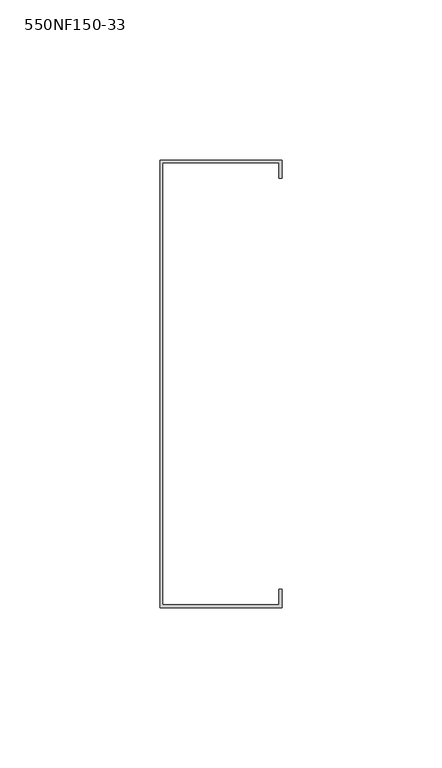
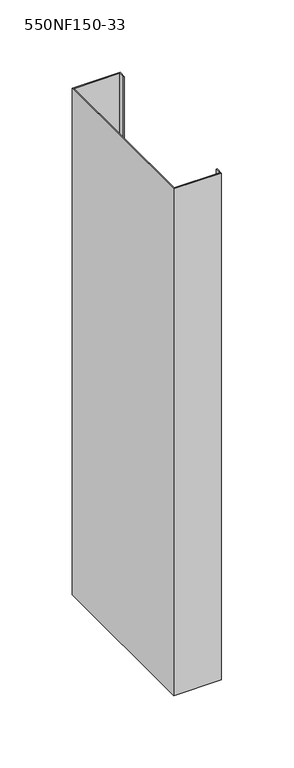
"""IFC4 building model written with IfcOpenShell, lengths in millimetres: column geometry, BIMSF-SSMA-S-Column : 550NF150-33."""

from ifc_helpers import new_model, si_unit, frame, origin, place, context, project, spatial, polyline, outline, extrude, source, transform, mapped, element, save


def column_550nf150_33_f77c9bc8(model_context):
    return source(origin(), model_context, "Body", "SweptSolid", [
        extrude(outline(polyline([(-11.9977877, -80.5871249), (-11.9977877, 59.1128751), (26.1022123, 59.1128751), (26.1022123, 53.4553593), (25.2198965, 53.4553593), (25.2198965, 58.2305593), (-11.115472, 58.2305593), (-11.115472, -79.7048092), (25.2198965, -79.7048092), (25.2198965, -74.9296092), (26.1022123, -74.9296092), (26.1022123, -80.5871249), (-11.9977877, -80.5871249)])), frame((0.0, 0.0, 5096.7679688), z_axis=(0.0, 0.0, 1.0), x_axis=(1.0, 0.0, 0.0)), (0.0, 0.0, 1.0), 426.8390625),
    ])


if __name__ == "__main__":
    model = new_model("IFC4")
    model_context = context("Model", 3, world=origin())
    ifc_project = project(units=[si_unit("LENGTHUNIT", "METRE", prefix="MILLI")], contexts=[model_context])
    site = spatial("IfcSite", under=ifc_project)
    building = spatial("IfcBuilding", under=site)
    placement = place(None, origin())
    column_550nf150_33_shape = column_550nf150_33_f77c9bc8(model_context)
    element("IfcColumn", 1, ObjectType="BIMSF-SSMA-S-Column : 550NF150-33", at=placement, inside=building, context=model_context, shape_type="MappedRepresentation", body=[
        mapped(column_550nf150_33_shape, transform((0.0, 0.0, 0.0), x_axis=(1.0, 0.0, 0.0), y_axis=(0.0, 1.0, 0.0), z_axis=(0.0, 0.0, 1.0))),
    ])
    save(model, "model.ifc")
